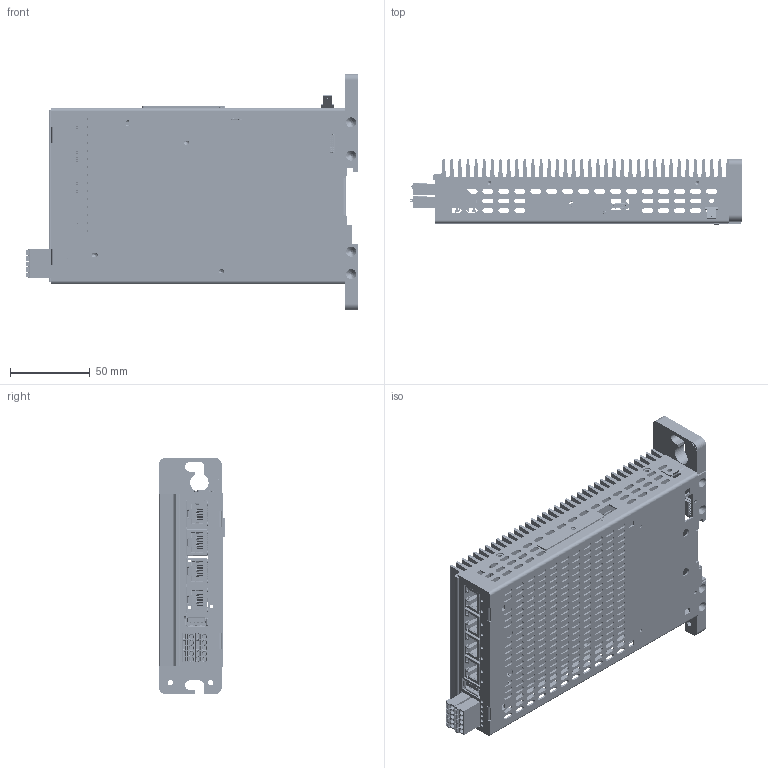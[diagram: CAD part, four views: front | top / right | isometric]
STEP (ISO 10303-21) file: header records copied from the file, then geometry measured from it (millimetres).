
FILE_DESCRIPTION (( 'STEP AP214' ), '1' );
FILE_NAME ('CP731-K (20-004-731-K) für Homepage_Kunde.STEP', '2018-06-19T08:59:01', ( 'SIGMATEK GmbH & Co KG' ), ( 'SIGMATEK GmbH & Co KG' ), 'SwSTEP 2.0', 'SolidWorks 2017', '' );
FILE_SCHEMA (( 'AUTOMOTIVE_DESIGN' ));
Length unit declared in the file: millimetre
Products named in the file (20): 3030261492 Steckzunge 6,3 m.B. M3 DIN46244 St-verzinnt; ZM1745-4511-10 Schutzleiterzeichen 100% Schwarz; ZM1815-4387-10 K黨lk鰎per_Gewindebohrungen; ZM1815-4388-10 Front CP731; ZM1815-4388-10 Front; CP731-K (20-004-731-K) f黵 Homepage_Kunde; ZM1815-4560-10 Hutschienenbefestigung CP731 unten; ZM1815-4549-10 Hutschienenbefestigung CP731 oben; ZM1815-4237-10 Batterieabdeckung CP731; ZM1815-4236-10 Gehäuse CP731; 4110262173 5pol._Federkraftstecker_fmc_1.5-5-st-3.5_1952296; 135602-KPL-00; 135601_20170829_11h07_cam_v101; PH-MCDN1.5_5-G-1-3.5P26THR; 4080225350 RJ45 Ethernet Buchse90 (M-RJSSE-5381-01T-REVT1)_Ohne Lichtleiter; 4080225350 RJ45 Ethernet Buchse90 COMBI-DECAL_BU90_MINI-IO_RJ45_NOLED_KLEB_Ohne Lichtleiter; USB3-A Buchse Molex 48404-0003; 4080225445_USB-Buchse_FCI_10103594; 4080225345 Erni Art. Nr. 464822 ähnlich 354062
Assembly tree (22 placements, depth 4):
  CP731-K (20-004-731-K) f黵 Homepage_Kunde
    ZM1815-4387-10 K黨lk鰎per_Gewindebohrungen
    3030261492 Steckzunge 6,3 m.B. M3 DIN46244 St-verzinnt
    135602-KPL-00
      135601_20170829_11h07_cam_v101
        4080225345 Erni Art. Nr. 464822 ähnlich 354062
        4080225445_USB-Buchse_FCI_10103594
        USB3-A Buchse Molex 48404-0003
        4080225350 RJ45 Ethernet Buchse90 COMBI-DECAL_BU90_MINI-IO_RJ45_NOLED_KLEB_Ohne Lichtleiter  x3
        4080225350 RJ45 Ethernet Buchse90 (M-RJSSE-5381-01T-REVT1)_Ohne Lichtleiter
        PH-MCDN1.5_5-G-1-3.5P26THR
    4110262173 5pol._Federkraftstecker_fmc_1.5-5-st-3.5_1952296  x2
    ZM1815-4236-10 Gehäuse CP731
      ZM1815-4236-10 Gehäuse CP731
    ZM1815-4237-10 Batterieabdeckung CP731
    ZM1815-4549-10 Hutschienenbefestigung CP731 oben
    ZM1815-4560-10 Hutschienenbefestigung CP731 unten
    ZM1815-4388-10 Front CP731
      ZM1815-4388-10 Front
    ZM1745-4511-10 Schutzleiterzeichen 100% Schwarz
Bounding box: 207.76 x 41.15 x 147.7 mm (x, y, z)
Volume: 301478.5 mm3; surface area: 224421.3 mm2
Topology: 17 solids, 25 shells, 8443 faces, 23919 edges, 15636 vertices
Faces by surface type: plane 5531, cylinder 2341, bspline 381, cone 178, torus 12
Entity records: 257516 total; most frequent: CARTESIAN_POINT 52524, ORIENTED_EDGE 39175, DIRECTION 36519, EDGE_CURVE 19599, LINE 14617, VECTOR 14617, VERTEX_POINT 12854, AXIS2_PLACEMENT_3D 10951
